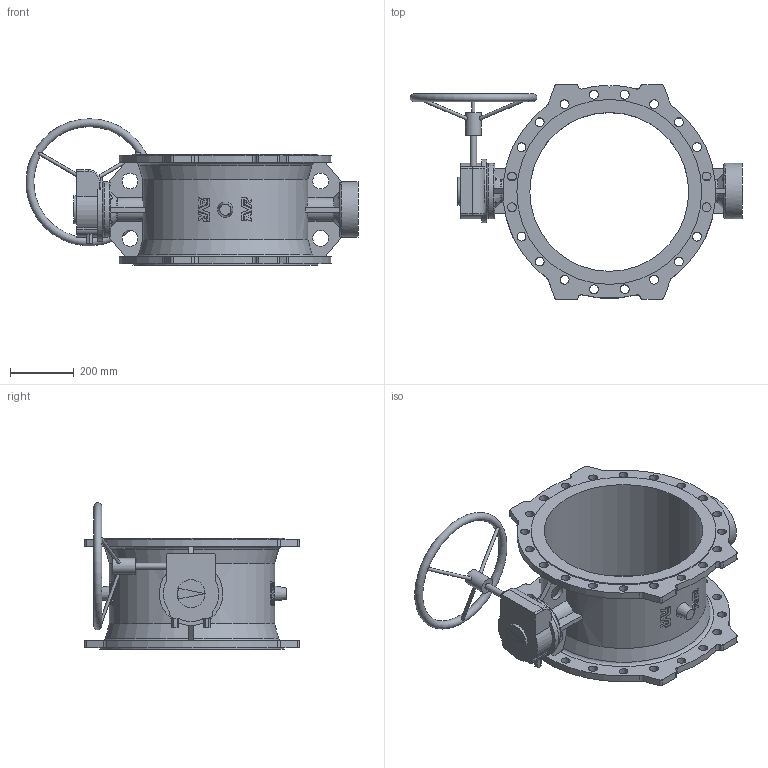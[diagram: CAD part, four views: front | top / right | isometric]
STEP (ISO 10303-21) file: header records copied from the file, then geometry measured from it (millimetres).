
FILE_DESCRIPTION (( 'STEP AP203' ), '1' );
FILE_NAME ('O_756_1_DN500_0XX00_AA0_step.step', '2016-03-04T11:49:00', ( 'Windows User' ), ( 'AVK' ), 'SwSTEP 2.0', 'SolidWorks 2012', '' );
FILE_SCHEMA (( 'CONFIG_CONTROL_DESIGN' ));
Length unit declared in the file: millimetre
Products named in the file (1): O_756_1_DN500_0XX00_AA0_step
Bounding box: 1044.96 x 676 x 460.96 mm (x, y, z)
Volume: 20928973.3 mm3; surface area: 2250711.2 mm2
Topology: 1 solids, 1 shells, 596 faces, 1726 edges, 1159 vertices
Faces by surface type: bspline 216, plane 187, cylinder 143, torus 36, cone 14
Full cylindrical faces by diameter (mm): 10 x3, 20 x1, 28 x40, 50 x5, 88 x1, 175 x2, 200 x1, 500 x1, 582 x2
Entity records: 24258 total; most frequent: CARTESIAN_POINT 10829, ORIENTED_EDGE 3238, DIRECTION 1873, EDGE_CURVE 1619, VERTEX_POINT 1112, B_SPLINE_CURVE_WITH_KNOTS 843, EDGE_LOOP 777, AXIS2_PLACEMENT_3D 724
